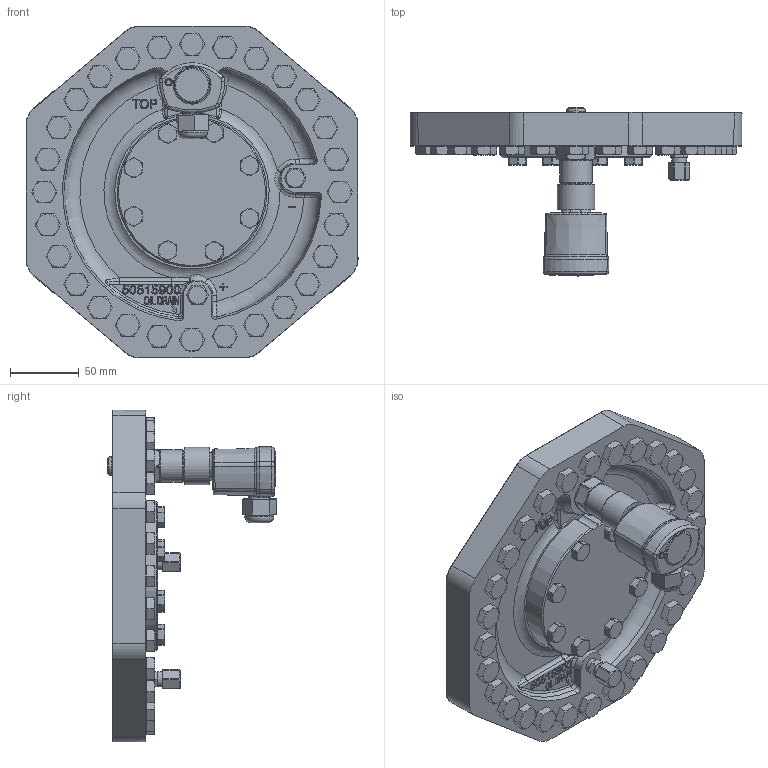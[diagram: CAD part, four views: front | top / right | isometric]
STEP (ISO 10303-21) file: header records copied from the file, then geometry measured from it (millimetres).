
FILE_DESCRIPTION(/* description */ (''),/* implementation_level */ '2;1');
FILE_NAME(/* name */ '4FMEM-4EMEM-4DMEM-MARINE_Arrangement 1.stp',/* time_stamp */ '2025-05-16T07:42:35+02:00',/* author */ (''),/* organization */ (''),/* preprocessor_version */ 'ST-DEVELOPER v20',/* originating_system */ 'SIEMENS PLM Software NX2406.8100',/* authorisation */ '');
FILE_SCHEMA (('AUTOMOTIVE_DESIGN { 1 0 10303 214 3 1 1 1 }'));
Length unit declared in the file: millimetre
Products named in the file (3): OIL-PRESS-CUT-OUT-DELTAP-2; BEARING-COVER-OIL-PUMP-CKHE3; 4FMEM-4EMEM-4DMEM-MARINE
Assembly tree (2 placements, depth 2):
  4FMEM-4EMEM-4DMEM-MARINE
    BEARING-COVER-OIL-PUMP-CKHE3
    OIL-PRESS-CUT-OUT-DELTAP-2
Bounding box: 241.46 x 122.95 x 241.46 mm (x, y, z)
Volume: 1247660.5 mm3; surface area: 161184.7 mm2
Topology: 2 solids, 2 shells, 1221 faces, 2938 edges, 1834 vertices
Faces by surface type: plane 530, cone 295, cylinder 142, bspline 106, extrusion 100, torus 41, revolution 6, sphere 1
Full cylindrical faces by diameter (mm): 10.8 x2, 11 x1, 11.4 x1, 13.67 x2, 14.63 x27, 16 x2, 17 x1, 19.8 x1, 20 x1, 21.3 x1, 22 x1, 23.8 x1, 23.9 x1, 25 x1, 27.1 x1
Entity records: 40875 total; most frequent: CARTESIAN_POINT 13978, ORIENTED_EDGE 5662, DIRECTION 4515, EDGE_CURVE 2831, VERTEX_POINT 1809, AXIS2_PLACEMENT_3D 1725, EDGE_LOOP 1416, ADVANCED_FACE 1221
